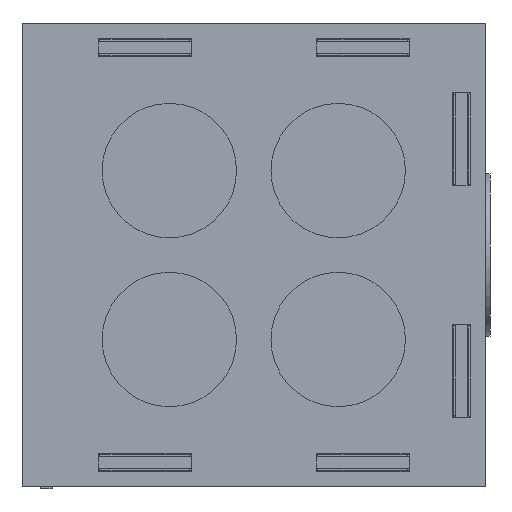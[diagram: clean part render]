
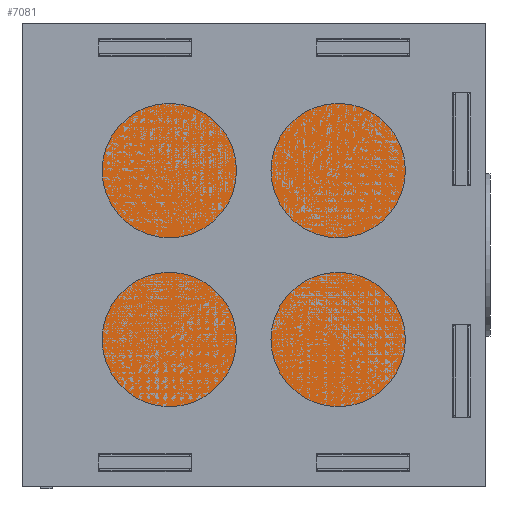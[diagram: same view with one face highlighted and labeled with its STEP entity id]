
A CAD part, left-side view. The second image highlights one B-rep face of the part: STEP entity #7081.
In plain terms, the highlighted planar face has unit normal (1, 0, 0).
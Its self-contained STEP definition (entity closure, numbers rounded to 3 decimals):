
#529=FACE_OUTER_BOUND('',#887,.T.);
#887=EDGE_LOOP('',(#4789,#4790,#4791,#4792));
#1358=LINE('',#10142,#2226);
#1360=LINE('',#10146,#2228);
#1361=LINE('',#10148,#2229);
#1362=LINE('',#10149,#2230);
#2226=VECTOR('',#8178,10.);
#2228=VECTOR('',#8182,10.);
#2229=VECTOR('',#8183,10.);
#2230=VECTOR('',#8184,10.);
#3093=VERTEX_POINT('',#10139);
#3094=VERTEX_POINT('',#10141);
#3095=VERTEX_POINT('',#10145);
#3096=VERTEX_POINT('',#10147);
#3770=EDGE_CURVE('',#3093,#3094,#1358,.T.);
#3772=EDGE_CURVE('',#3093,#3095,#1360,.T.);
#3773=EDGE_CURVE('',#3095,#3096,#1361,.T.);
#3774=EDGE_CURVE('',#3096,#3094,#1362,.T.);
#4789=ORIENTED_EDGE('',*,*,#3770,.F.);
#4790=ORIENTED_EDGE('',*,*,#3772,.T.);
#4791=ORIENTED_EDGE('',*,*,#3773,.T.);
#4792=ORIENTED_EDGE('',*,*,#3774,.T.);
#6799=PLANE('',#7622);
#7081=ADVANCED_FACE('',(#529),#6799,.F.);
#7622=AXIS2_PLACEMENT_3D('',#10144,#8180,#8181);
#8178=DIRECTION('',(0.,0.,1.));
#8180=DIRECTION('center_axis',(-1.,0.,0.));
#8181=DIRECTION('ref_axis',(0.,-1.,0.));
#8182=DIRECTION('',(0.,1.,0.));
#8183=DIRECTION('',(0.,0.,1.));
#8184=DIRECTION('',(0.,-1.,0.));
#10139=CARTESIAN_POINT('',(-43.5,-43.5,-43.5));
#10141=CARTESIAN_POINT('',(-43.5,-43.5,43.5));
#10142=CARTESIAN_POINT('',(-43.5,-43.5,0.));
#10144=CARTESIAN_POINT('Origin',(-43.5,43.5,0.));
#10145=CARTESIAN_POINT('',(-43.5,43.5,-43.5));
#10146=CARTESIAN_POINT('',(-43.5,43.5,-43.5));
#10147=CARTESIAN_POINT('',(-43.5,43.5,43.5));
#10148=CARTESIAN_POINT('',(-43.5,43.5,0.));
#10149=CARTESIAN_POINT('',(-43.5,43.5,43.5));
